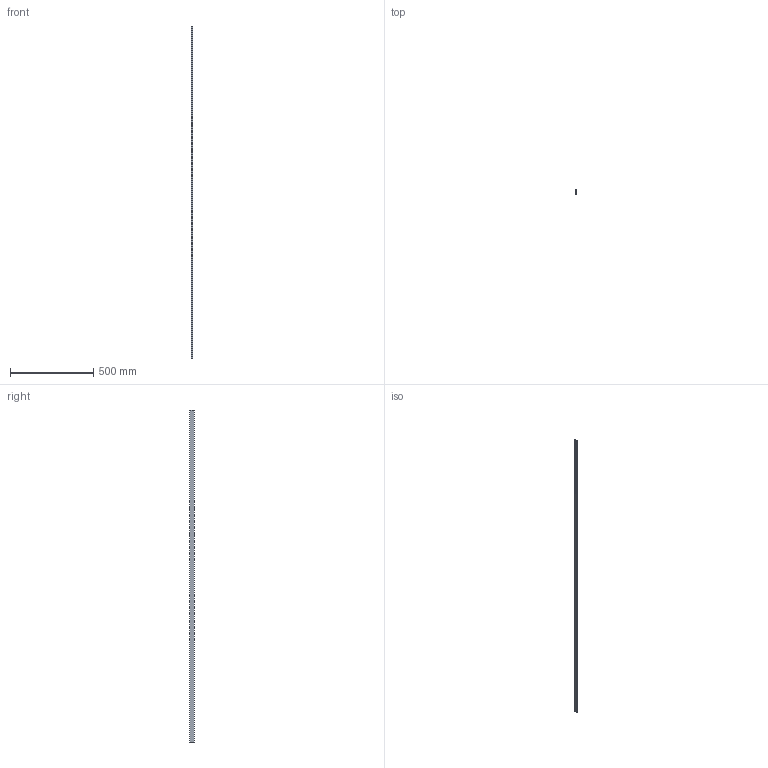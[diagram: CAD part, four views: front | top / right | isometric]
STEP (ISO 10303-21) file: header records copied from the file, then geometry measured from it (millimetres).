
FILE_DESCRIPTION (( 'STEP AP214' ), '1' );
FILE_NAME ('JB-55020.step', '2023-12-26T01:15:08', ( 'catia' ), ( 'HP Inc.' ), 'SwSTEP 2.0', 'SolidWorks 2021', '' );
FILE_SCHEMA (( 'AUTOMOTIVE_DESIGN' ));
Length unit declared in the file: millimetre
Products named in the file (1): JB-55020
Bounding box: 9 x 25 x 2000 mm (x, y, z)
Volume: 174600 mm3; surface area: 229735.7 mm2
Topology: 1 solids, 1 shells, 18 faces, 48 edges, 32 vertices
Faces by surface type: plane 18
Entity records: 586 total; most frequent: CARTESIAN_POINT 99, ORIENTED_EDGE 96, DIRECTION 86, LINE 48, EDGE_CURVE 48, VECTOR 48, VERTEX_POINT 32, AXIS2_PLACEMENT_3D 19
